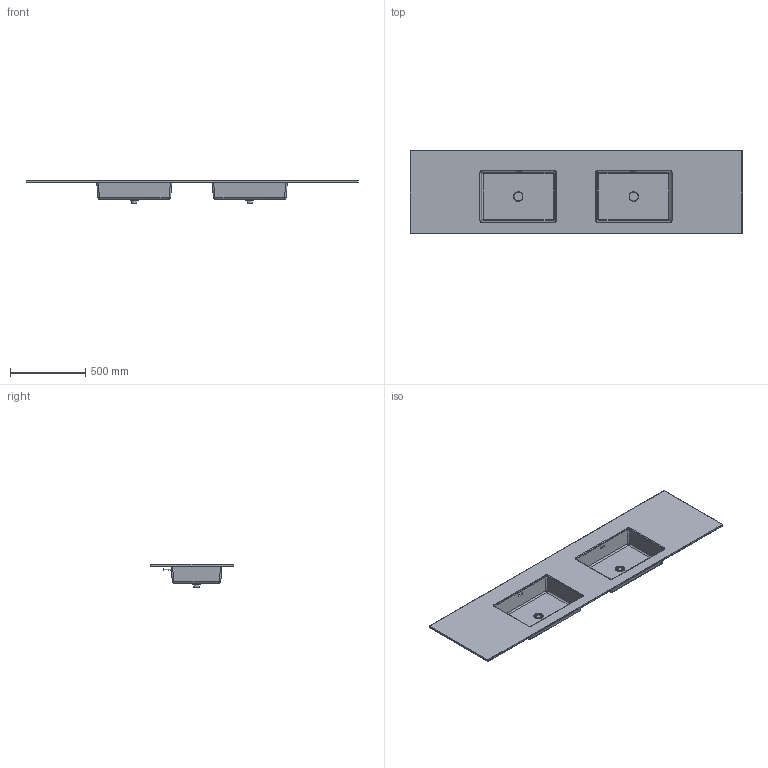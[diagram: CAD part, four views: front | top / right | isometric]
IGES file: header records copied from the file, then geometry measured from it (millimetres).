
Start section:  Autodesk Design for Windows version 2010 IGES version 5.3  Autodesk Design for Windows version 2010 IGES version 5.3
Global section: file name: D:\Desktop\GIOVANNI\SCHEDE PRODOTTO\PIANI LAVABO\DESK 50\3D\MOMA DESIGN_PIANI LAVABO_DESK 50 MODULE DOUBLE.igs; native system: Rhinoceros ( Jan 17 2018 ); preprocessor: Trout Lake IGES 012 Jan 17 2018; date: 230606.095140; units: millimetre
Bounding box: 2200 x 550 x 154.12 mm (x, y, z)
Surface area: 2520634.7 mm2 (no closed solid volume)
Topology: 0 solids, 0 shells, 136 faces, 1400 edges, 1385 vertices
Faces by surface type: bspline 136
